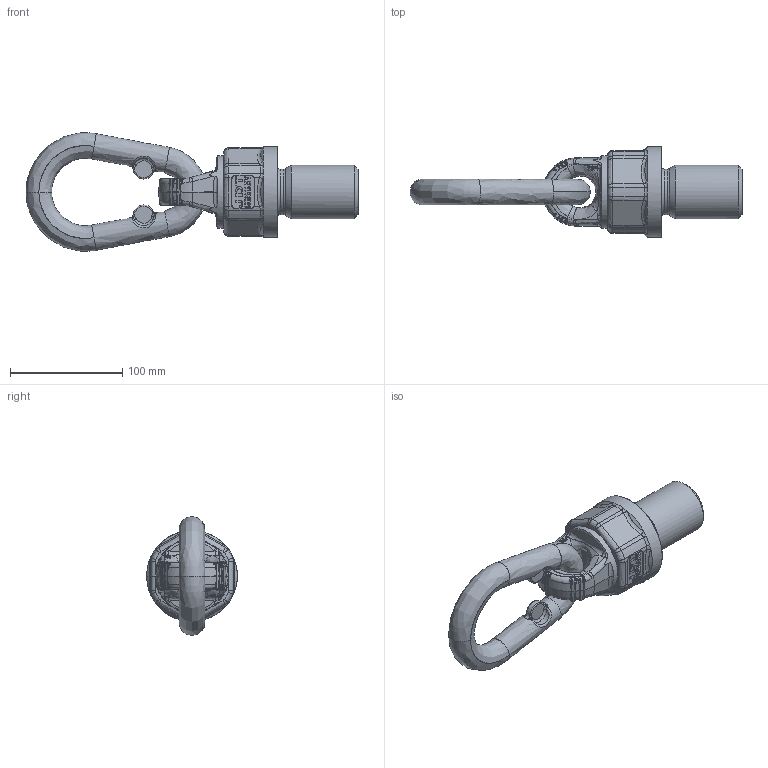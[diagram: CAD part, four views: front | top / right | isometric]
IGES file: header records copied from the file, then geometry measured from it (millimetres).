
Global section: file name: C:\IDEAS\IDEAS-DATEN\Temp\TP12.5_M48x72_senkrecht.igs; preprocessor: I-DEAS 3D IGES Translator 11; date: 20080319.164637; units: millimetre
Bounding box: 296.24 x 81 x 105.98 mm (x, y, z)
Surface area: 67687.9 mm2 (no closed solid volume)
Topology: 0 solids, 0 shells, 684 faces, 3586 edges, 3532 vertices
Faces by surface type: bspline 684
